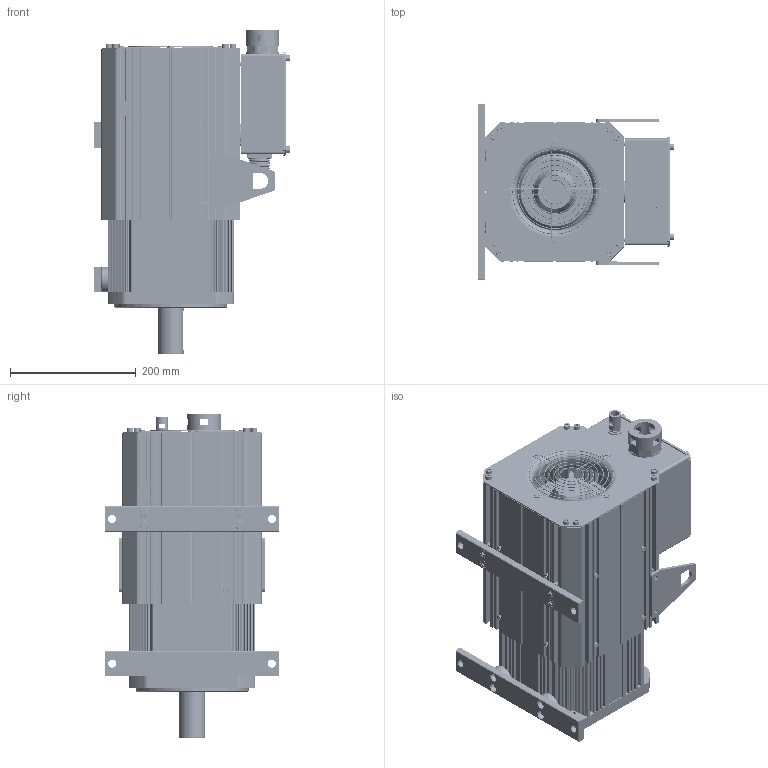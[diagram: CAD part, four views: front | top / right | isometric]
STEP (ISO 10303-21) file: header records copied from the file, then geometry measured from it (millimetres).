
FILE_DESCRIPTION((''),'2;1');
FILE_NAME('K058F18C18P_ASM','2023-05-23T14:01:35',('admin'),(''),'CREO PARAMETRIC BY PTC INC, 2019080','CREO PARAMETRIC BY PTC INC, 2019080','');
FILE_SCHEMA(('CONFIG_CONTROL_DESIGN'));
Products named in the file (44): QDG_10600-00001; ZZ_12400-01002_11KW; ZC_30400-00001; ZC_30400-01002; ZCZDQ_11200-00001; ZZZJ_80500-01002_11KW_ASM; O-RING_50000-01002; JK_10200-44045_11KW; DZZJ_80200-08009_11KW_ASM; FDB_12900-64065_11KW; DEGDT_11500-02003; DE_11300-00001; O-RING_50000-02003; YXHQ_20300-00001; O-RING_50000-03004; JXHT_41000-09010; JXHG_41000-00001; JXHGDK_11600-04005; M6X10; XJD_50800-11012; AD13_1; AD42P5_3; MFD_YD28-15P; HKXZ_YD28-15P_40100-00001; PDLD_4X12; JXHZJ_81100-00002_ASM; M5X25; HDG_21200-00001; M8X30; HGB_21600-00001; M4X10; FJ_40000-03004; FJFHB_11100-02003; FHW_30500-00001; PDQ_4; MD_4; FJFHBZZ_ASM; QZCJ_10400-15016; DK_12800-32033; HZCJ_10400-16017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
Assembly tree (102 placements, depth 3):
  K058F18C18P_ASM
    QDG_10600-00001
    ZZZJ_80500-01002_11KW_ASM
      ZZ_12400-01002_11KW
      ZC_30400-00001
      ZC_30400-01002
      ZCZDQ_11200-00001
    O-RING_50000-01002
    DZZJ_80200-08009_11KW_ASM
      JK_10200-44045_11KW
    FDB_12900-64065_11KW
    DEGDT_11500-02003  x2
    DE_11300-00001  x2
    O-RING_50000-02003
    YXHQ_20300-00001
    O-RING_50000-03004
    JXHZJ_81100-00002_ASM
      JXHT_41000-09010
      JXHG_41000-00001
      JXHGDK_11600-04005  x4
      M6X10  x8
      XJD_50800-11012
      AD13_1
      AD42P5_3
      MFD_YD28-15P
      HKXZ_YD28-15P_40100-00001
      PDLD_4X12  x4
    M5X25  x16
    HDG_21200-00001
    M8X30  x8
    HGB_21600-00001
    M4X10  x4
    FJ_40000-03004
    FJFHBZZ_ASM
      FJFHB_11100-02003
      FHW_30500-00001
      PDQ_4  x4
      MD_4  x4
    M6X10  x8
    ZCJZJ_22300-00007_11KW_ASM
      QZCJ_10400-15016
      DK_12800-32033  x2
      HZCJ_10400-16017
      GDK_11600-09010  x2
      M8X16  x4
Bounding box: 312.35 x 278 x 515.8 mm (x, y, z)
Volume: 7022673 mm3; surface area: 2488240.8 mm2
Topology: 111 solids, 115 shells, 5356 faces, 14217 edges, 9273 vertices
Faces by surface type: plane 2660, cylinder 2108, cone 241, torus 213, bspline 116, sphere 18
Entity records: 147081 total; most frequent: CARTESIAN_POINT 33046, DIRECTION 24204, ORIENTED_EDGE 23690, EDGE_CURVE 11853, AXIS2_PLACEMENT_3D 8496, VERTEX_POINT 7806, VECTOR 7212, LINE 7212
